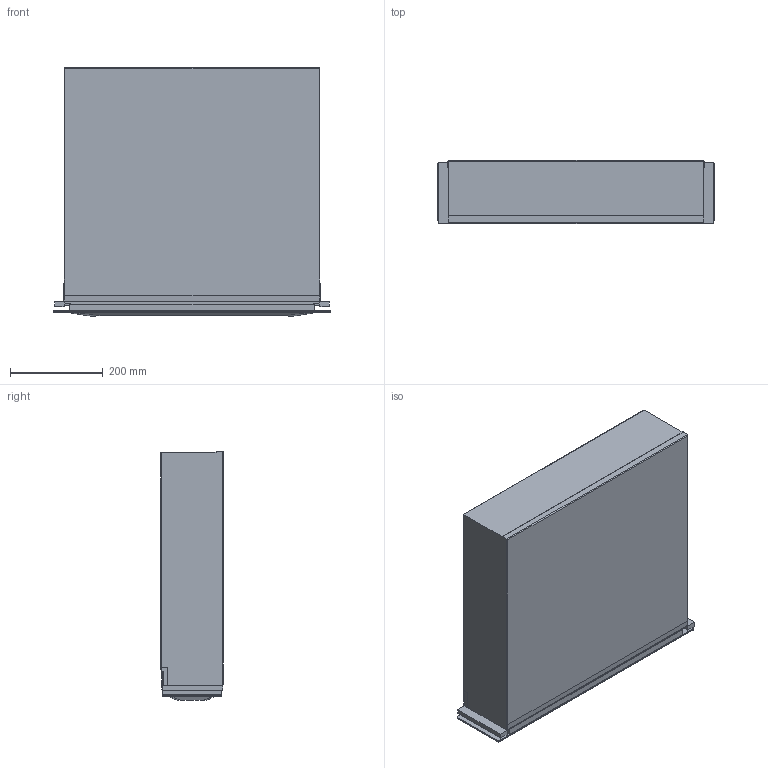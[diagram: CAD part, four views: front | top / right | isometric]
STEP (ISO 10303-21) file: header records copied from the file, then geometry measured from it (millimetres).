
FILE_DESCRIPTION (( 'STEP AP214' ), '1' );
FILE_NAME ('Victoria.STEP', '2017-12-01T09:44:44', ( '' ), ( '' ), 'SwSTEP 2.0', 'SolidWorks 2016', '' );
FILE_SCHEMA (( 'AUTOMOTIVE_DESIGN' ));
Length unit declared in the file: millimetre
Products named in the file (1): Victoria
Bounding box: 597 x 135 x 535.99 mm (x, y, z)
Volume: 39132164.8 mm3; surface area: 1221062.1 mm2
Topology: 5 solids, 5 shells, 143 faces, 340 edges, 208 vertices
Faces by surface type: plane 57, cylinder 50, bspline 32, torus 4
Entity records: 5656 total; most frequent: CARTESIAN_POINT 2532, ORIENTED_EDGE 680, DIRECTION 570, EDGE_CURVE 340, VERTEX_POINT 208, AXIS2_PLACEMENT_3D 194, VECTOR 182, LINE 182
